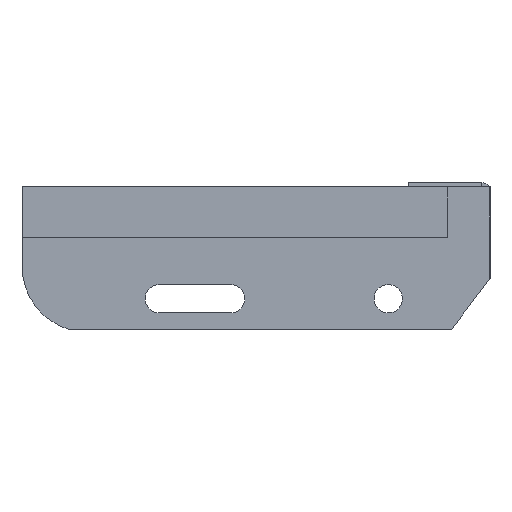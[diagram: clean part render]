
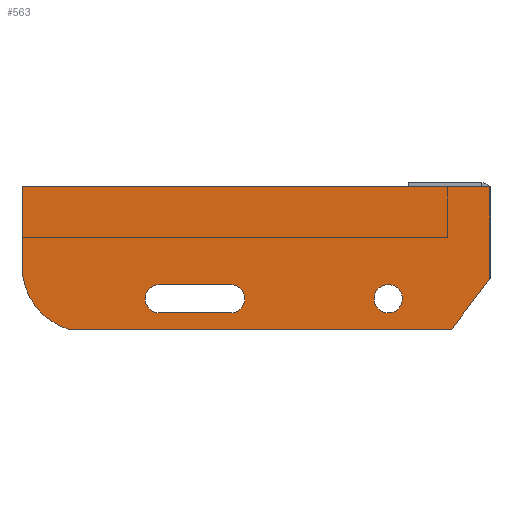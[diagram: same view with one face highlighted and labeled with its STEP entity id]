
A CAD part, left-side view. The second image highlights one B-rep face of the part: STEP entity #563.
In plain terms, the highlighted planar face has unit normal (-1, 0, 0) as drawn and (0, 0, 1) by its records, which use the part's own axes.
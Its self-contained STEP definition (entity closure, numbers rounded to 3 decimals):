
#13 = CARTESIAN_POINT ( 'NONE',  ( -127.5, -48., 3. ) ) ;
#20 = LINE ( 'NONE', #1541, #600 ) ;
#21 = LINE ( 'NONE', #920, #1021 ) ;
#41 = DIRECTION ( 'NONE',  ( 0., 0., 1. ) ) ;
#53 = VERTEX_POINT ( 'NONE', #431 ) ;
#72 = EDGE_CURVE ( 'NONE', #537, #682, #1337, .T. ) ;
#75 = EDGE_CURVE ( 'NONE', #1054, #1728, #2009, .T. ) ;
#108 = LINE ( 'NONE', #736, #238 ) ;
#109 = CARTESIAN_POINT ( 'NONE',  ( -162.5, -62., 3. ) ) ;
#148 = EDGE_CURVE ( 'NONE', #906, #1821, #108, .T. ) ;
#156 = AXIS2_PLACEMENT_3D ( 'NONE', #456, #260, #1844 ) ;
#238 = VECTOR ( 'NONE', #1488, 1000. ) ;
#260 = DIRECTION ( 'NONE',  ( 0., 0., 1. ) ) ;
#319 = EDGE_CURVE ( 'NONE', #965, #385, #1545, .T. ) ;
#337 = AXIS2_PLACEMENT_3D ( 'NONE', #729, #1840, #1329 ) ;
#355 = EDGE_CURVE ( 'NONE', #1821, #1054, #21, .T. ) ;
#385 = VERTEX_POINT ( 'NONE', #510 ) ;
#401 = CARTESIAN_POINT ( 'NONE',  ( -18.839, -70., 3. ) ) ;
#414 = CARTESIAN_POINT ( 'NONE',  ( -43., -55., 3. ) ) ;
#417 = LINE ( 'NONE', #1823, #1113 ) ;
#431 = CARTESIAN_POINT ( 'NONE',  ( -207.26, -70., 3. ) ) ;
#434 = CIRCLE ( 'NONE', #1705, 7. ) ;
#436 = VECTOR ( 'NONE', #1974, 1000. ) ;
#455 = ORIENTED_EDGE ( 'NONE', *, *, #670, .F. ) ;
#456 = CARTESIAN_POINT ( 'NONE',  ( -127.5, -55., 3. ) ) ;
#468 = ORIENTED_EDGE ( 'NONE', *, *, #148, .T. ) ;
#471 = CARTESIAN_POINT ( 'NONE',  ( -50., -55., 3. ) ) ;
#478 = DIRECTION ( 'NONE',  ( 0.602, 0.799, 0. ) ) ;
#510 = CARTESIAN_POINT ( 'NONE',  ( -57., -55., 3. ) ) ;
#537 = VERTEX_POINT ( 'NONE', #1773 ) ;
#563 = ADVANCED_FACE ( 'NONE', ( #1457, #1318, #1617 ), #1120, .T. ) ;
#598 = CARTESIAN_POINT ( 'NONE',  ( -230., -39., 3. ) ) ;
#600 = VECTOR ( 'NONE', #478, 1000. ) ;
#609 = CARTESIAN_POINT ( 'NONE',  ( -230., 0., 3. ) ) ;
#613 = CARTESIAN_POINT ( 'NONE',  ( -18.839, -70., 3. ) ) ;
#643 = DIRECTION ( 'NONE',  ( 0., 0., 1. ) ) ;
#648 = ORIENTED_EDGE ( 'NONE', *, *, #789, .T. ) ;
#670 = EDGE_CURVE ( 'NONE', #1709, #1955, #417, .T. ) ;
#673 = DIRECTION ( 'NONE',  ( 1., 0., 0. ) ) ;
#682 = VERTEX_POINT ( 'NONE', #1983 ) ;
#685 = DIRECTION ( 'NONE',  ( 0., 0., 1. ) ) ;
#688 = CARTESIAN_POINT ( 'NONE',  ( -197.5, -39., 3. ) ) ;
#701 = LINE ( 'NONE', #401, #986 ) ;
#704 = CARTESIAN_POINT ( 'NONE',  ( -230., 0., 3. ) ) ;
#708 = ORIENTED_EDGE ( 'NONE', *, *, #72, .F. ) ;
#727 = VECTOR ( 'NONE', #919, 1000. ) ;
#729 = CARTESIAN_POINT ( 'NONE',  ( -162.5, -55., 3. ) ) ;
#736 = CARTESIAN_POINT ( 'NONE',  ( 0., 0., 3. ) ) ;
#740 = EDGE_CURVE ( 'NONE', #682, #1709, #1335, .T. ) ;
#759 = AXIS2_PLACEMENT_3D ( 'NONE', #1325, #1723, #1066 ) ;
#765 = AXIS2_PLACEMENT_3D ( 'NONE', #1560, #643, #1253 ) ;
#778 = EDGE_CURVE ( 'NONE', #1979, #537, #1391, .T. ) ;
#789 = EDGE_CURVE ( 'NONE', #1190, #906, #20, .T. ) ;
#795 = AXIS2_PLACEMENT_3D ( 'NONE', #1492, #685, #1455 ) ;
#798 = CARTESIAN_POINT ( 'NONE',  ( -162.5, -48., 3. ) ) ;
#854 = AXIS2_PLACEMENT_3D ( 'NONE', #688, #41, #673 ) ;
#867 = EDGE_CURVE ( 'NONE', #385, #965, #434, .T. ) ;
#906 = VERTEX_POINT ( 'NONE', #937 ) ;
#919 = DIRECTION ( 'NONE',  ( -1., 0., 0. ) ) ;
#920 = CARTESIAN_POINT ( 'NONE',  ( 0., 0., 3. ) ) ;
#930 = CARTESIAN_POINT ( 'NONE',  ( -127.5, -62., 3. ) ) ;
#937 = CARTESIAN_POINT ( 'NONE',  ( 0., -45., 3. ) ) ;
#965 = VERTEX_POINT ( 'NONE', #414 ) ;
#984 = EDGE_CURVE ( 'NONE', #1728, #53, #1540, .T. ) ;
#986 = VECTOR ( 'NONE', #1002, 1000. ) ;
#1002 = DIRECTION ( 'NONE',  ( 1., 0., 0. ) ) ;
#1021 = VECTOR ( 'NONE', #1270, 1000. ) ;
#1043 = CIRCLE ( 'NONE', #156, 7. ) ;
#1054 = VERTEX_POINT ( 'NONE', #704 ) ;
#1066 = DIRECTION ( 'NONE',  ( 1., 0., 0. ) ) ;
#1113 = VECTOR ( 'NONE', #1530, 1000. ) ;
#1120 = PLANE ( 'NONE',  #854 ) ;
#1123 = ORIENTED_EDGE ( 'NONE', *, *, #867, .F. ) ;
#1142 = EDGE_CURVE ( 'NONE', #1955, #1979, #1043, .T. ) ;
#1190 = VERTEX_POINT ( 'NONE', #613 ) ;
#1253 = DIRECTION ( 'NONE',  ( 1., 0., 0. ) ) ;
#1255 = ORIENTED_EDGE ( 'NONE', *, *, #1142, .F. ) ;
#1260 = DIRECTION ( 'NONE',  ( 0., 0., 1. ) ) ;
#1270 = DIRECTION ( 'NONE',  ( -1., 0., 0. ) ) ;
#1318 = FACE_BOUND ( 'NONE', #1566, .T. ) ;
#1325 = CARTESIAN_POINT ( 'NONE',  ( -162.5, -55., 3. ) ) ;
#1329 = DIRECTION ( 'NONE',  ( 1., 0., 0. ) ) ;
#1335 = CIRCLE ( 'NONE', #759, 7. ) ;
#1337 = CIRCLE ( 'NONE', #337, 7. ) ;
#1379 = ORIENTED_EDGE ( 'NONE', *, *, #740, .F. ) ;
#1391 = LINE ( 'NONE', #798, #727 ) ;
#1409 = EDGE_LOOP ( 'NONE', ( #468, #1758, #1843, #1907, #1800, #648 ) ) ;
#1455 = DIRECTION ( 'NONE',  ( 1., 0., 0. ) ) ;
#1457 = FACE_OUTER_BOUND ( 'NONE', #1409, .T. ) ;
#1488 = DIRECTION ( 'NONE',  ( 0., 1., 0. ) ) ;
#1492 = CARTESIAN_POINT ( 'NONE',  ( -197.5, -39., 3. ) ) ;
#1505 = ORIENTED_EDGE ( 'NONE', *, *, #319, .F. ) ;
#1510 = EDGE_CURVE ( 'NONE', #53, #1190, #701, .T. ) ;
#1517 = ORIENTED_EDGE ( 'NONE', *, *, #778, .F. ) ;
#1530 = DIRECTION ( 'NONE',  ( 1., 0., 0. ) ) ;
#1540 = CIRCLE ( 'NONE', #795, 32.5 ) ;
#1541 = CARTESIAN_POINT ( 'NONE',  ( 0., -45., 3. ) ) ;
#1545 = CIRCLE ( 'NONE', #765, 7. ) ;
#1560 = CARTESIAN_POINT ( 'NONE',  ( -50., -55., 3. ) ) ;
#1566 = EDGE_LOOP ( 'NONE', ( #1123, #1505 ) ) ;
#1617 = FACE_BOUND ( 'NONE', #1666, .T. ) ;
#1666 = EDGE_LOOP ( 'NONE', ( #455, #1379, #708, #1517, #1255 ) ) ;
#1705 = AXIS2_PLACEMENT_3D ( 'NONE', #471, #1260, #1887 ) ;
#1709 = VERTEX_POINT ( 'NONE', #109 ) ;
#1723 = DIRECTION ( 'NONE',  ( 0., 0., 1. ) ) ;
#1728 = VERTEX_POINT ( 'NONE', #598 ) ;
#1758 = ORIENTED_EDGE ( 'NONE', *, *, #355, .T. ) ;
#1773 = CARTESIAN_POINT ( 'NONE',  ( -162.5, -48., 3. ) ) ;
#1800 = ORIENTED_EDGE ( 'NONE', *, *, #1510, .T. ) ;
#1821 = VERTEX_POINT ( 'NONE', #1827 ) ;
#1823 = CARTESIAN_POINT ( 'NONE',  ( -162.5, -62., 3. ) ) ;
#1827 = CARTESIAN_POINT ( 'NONE',  ( 0., 0., 3. ) ) ;
#1840 = DIRECTION ( 'NONE',  ( 0., 0., 1. ) ) ;
#1843 = ORIENTED_EDGE ( 'NONE', *, *, #75, .T. ) ;
#1844 = DIRECTION ( 'NONE',  ( 1., 0., 0. ) ) ;
#1887 = DIRECTION ( 'NONE',  ( 1., 0., 0. ) ) ;
#1907 = ORIENTED_EDGE ( 'NONE', *, *, #984, .T. ) ;
#1955 = VERTEX_POINT ( 'NONE', #930 ) ;
#1974 = DIRECTION ( 'NONE',  ( 0., -1., 0. ) ) ;
#1979 = VERTEX_POINT ( 'NONE', #13 ) ;
#1983 = CARTESIAN_POINT ( 'NONE',  ( -169.5, -55., 3. ) ) ;
#2009 = LINE ( 'NONE', #609, #436 ) ;
